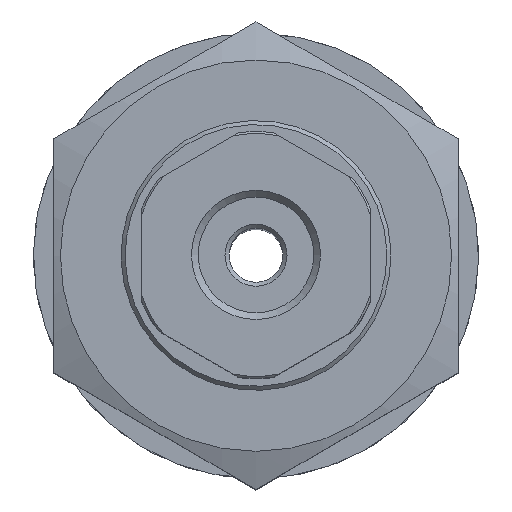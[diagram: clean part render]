
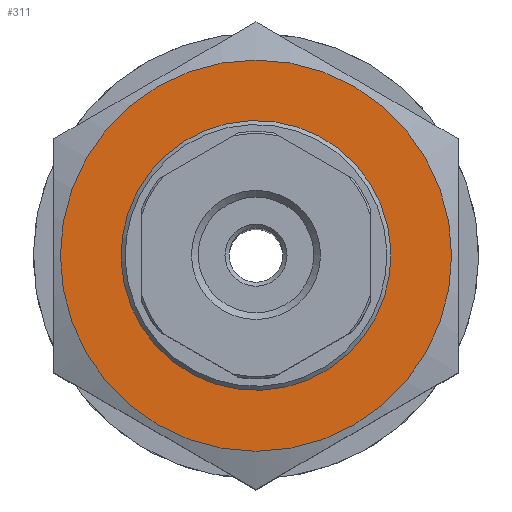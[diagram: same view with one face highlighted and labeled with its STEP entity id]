
A CAD part, top view. The second image highlights one B-rep face of the part: STEP entity #311.
In plain terms, the highlighted planar face has unit normal (0, 0, 1).
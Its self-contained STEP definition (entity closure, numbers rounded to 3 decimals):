
#311=ADVANCED_FACE('',(#613,#614),#615,.F.);
#613=FACE_BOUND('',#992,.T.);
#614=FACE_OUTER_BOUND('',#993,.T.);
#615=PLANE('',#994);
#992=EDGE_LOOP('',(#3739));
#993=EDGE_LOOP('',(#3740));
#994=AXIS2_PLACEMENT_3D('',#3741,#3742,#3743);
#3739=ORIENTED_EDGE('',*,*,#4569,.F.);
#3740=ORIENTED_EDGE('',*,*,#4560,.T.);
#3741=CARTESIAN_POINT('',(8.66,-15.0,0.0));
#3742=DIRECTION('',(0.0,0.0,-1.0));
#3743=DIRECTION('',(-1.0,0.0,0.0));
#4560=EDGE_CURVE('',#4897,#4897,#4898,.T.);
#4569=EDGE_CURVE('',#4910,#4910,#4911,.F.);
#4897=VERTEX_POINT('',#5423);
#4898=CIRCLE('',#5424,14.5);
#4910=VERTEX_POINT('',#5456);
#4911=CIRCLE('',#5457,9.25);
#5423=CARTESIAN_POINT('',(14.5,0.0,0.));
#5424=AXIS2_PLACEMENT_3D('',#6757,#6758,#6759);
#5456=CARTESIAN_POINT('',(-9.25,0.,0.0));
#5457=AXIS2_PLACEMENT_3D('',#6763,#6764,#6765);
#6757=CARTESIAN_POINT('',(0.0,0.0,0.));
#6758=DIRECTION('',(0.0,0.0,1.0));
#6759=DIRECTION('',(1.0,0.0,0.0));
#6763=CARTESIAN_POINT('',(0.,0.0,0.0));
#6764=DIRECTION('',(0.0,0.0,-1.0));
#6765=DIRECTION('',(-1.0,0.0,0.0));
